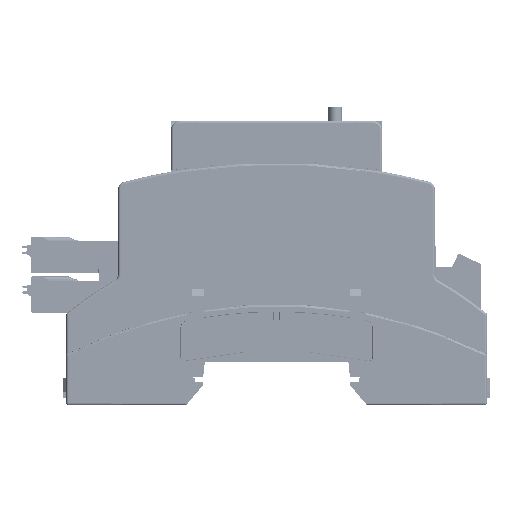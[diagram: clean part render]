
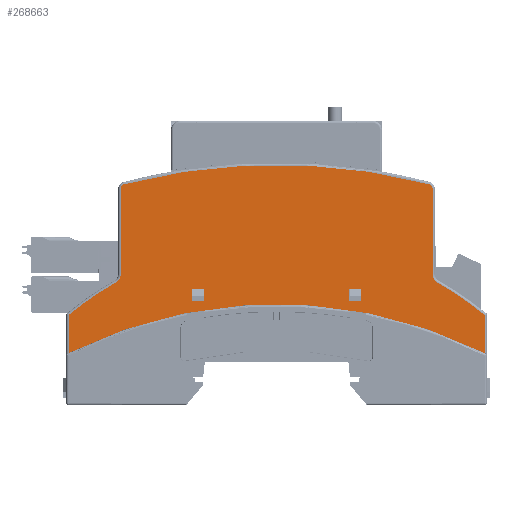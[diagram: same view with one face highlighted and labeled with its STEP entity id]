
A CAD part, front view. The second image highlights one B-rep face of the part: STEP entity #268663.
In plain terms, the highlighted planar face has unit normal (0, -1, 0) as drawn and (0, 0, 1) by its records, which use the part's own axes.
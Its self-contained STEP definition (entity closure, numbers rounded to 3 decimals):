
#2573=FACE_BOUND('',#34791,.T.);
#2574=FACE_BOUND('',#34792,.T.);
#7680=PLANE('',#283083);
#20655=FACE_OUTER_BOUND('',#34790,.T.);
#34790=EDGE_LOOP('',(#212657,#212658,#212659,#212660,#212661,#212662,#212663,
#212664,#212665,#212666,#212667,#212668));
#34791=EDGE_LOOP('',(#212669,#212670,#212671,#212672));
#34792=EDGE_LOOP('',(#212673,#212674,#212675,#212676));
#57710=LINE('',#390709,#94568);
#57715=LINE('',#390727,#94573);
#57718=LINE('',#390735,#94576);
#57724=LINE('',#390754,#94582);
#57726=LINE('',#390768,#94584);
#57727=LINE('',#390770,#94585);
#57728=LINE('',#390772,#94586);
#57729=LINE('',#390773,#94587);
#57730=LINE('',#390776,#94588);
#57731=LINE('',#390778,#94589);
#57732=LINE('',#390780,#94590);
#57733=LINE('',#390781,#94591);
#94568=VECTOR('',#317751,1.);
#94573=VECTOR('',#317770,1.);
#94576=VECTOR('',#317775,1.);
#94582=VECTOR('',#317795,1.);
#94584=VECTOR('',#317813,10.);
#94585=VECTOR('',#317814,10.);
#94586=VECTOR('',#317815,10.);
#94587=VECTOR('',#317816,10.);
#94588=VECTOR('',#317817,10.);
#94589=VECTOR('',#317818,10.);
#94590=VECTOR('',#317819,10.);
#94591=VECTOR('',#317820,10.);
#118410=CIRCLE('',#283060,1.);
#118412=CIRCLE('',#283064,2.);
#118414=CIRCLE('',#283067,69.5);
#118416=CIRCLE('',#283072,69.5);
#118418=CIRCLE('',#283075,2.);
#118420=CIRCLE('',#283079,1.);
#118422=CIRCLE('',#283082,129.2);
#118423=CIRCLE('',#283084,99.5);
#129033=VERTEX_POINT('',#390699);
#129034=VERTEX_POINT('',#390701);
#129036=VERTEX_POINT('',#390707);
#129038=VERTEX_POINT('',#390713);
#129040=VERTEX_POINT('',#390719);
#129042=VERTEX_POINT('',#390725);
#129045=VERTEX_POINT('',#390732);
#129046=VERTEX_POINT('',#390734);
#129048=VERTEX_POINT('',#390740);
#129050=VERTEX_POINT('',#390746);
#129052=VERTEX_POINT('',#390752);
#129054=VERTEX_POINT('',#390758);
#129055=VERTEX_POINT('',#390766);
#129056=VERTEX_POINT('',#390767);
#129057=VERTEX_POINT('',#390769);
#129058=VERTEX_POINT('',#390771);
#129059=VERTEX_POINT('',#390774);
#129060=VERTEX_POINT('',#390775);
#129061=VERTEX_POINT('',#390777);
#129062=VERTEX_POINT('',#390779);
#159644=EDGE_CURVE('',#129033,#129034,#118410,.T.);
#159648=EDGE_CURVE('',#129036,#129033,#57710,.T.);
#159651=EDGE_CURVE('',#129038,#129036,#118412,.T.);
#159654=EDGE_CURVE('',#129040,#129038,#118414,.T.);
#159657=EDGE_CURVE('',#129042,#129040,#57715,.T.);
#159660=EDGE_CURVE('',#129045,#129046,#57718,.T.);
#159664=EDGE_CURVE('',#129048,#129045,#118416,.T.);
#159667=EDGE_CURVE('',#129050,#129048,#118418,.T.);
#159670=EDGE_CURVE('',#129052,#129050,#57724,.T.);
#159673=EDGE_CURVE('',#129054,#129052,#118420,.T.);
#159675=EDGE_CURVE('',#129034,#129054,#118422,.T.);
#159676=EDGE_CURVE('',#129046,#129042,#118423,.T.);
#159677=EDGE_CURVE('',#129055,#129056,#57726,.T.);
#159678=EDGE_CURVE('',#129057,#129055,#57727,.T.);
#159679=EDGE_CURVE('',#129058,#129057,#57728,.T.);
#159680=EDGE_CURVE('',#129056,#129058,#57729,.T.);
#159681=EDGE_CURVE('',#129059,#129060,#57730,.T.);
#159682=EDGE_CURVE('',#129061,#129059,#57731,.T.);
#159683=EDGE_CURVE('',#129062,#129061,#57732,.T.);
#159684=EDGE_CURVE('',#129060,#129062,#57733,.T.);
#212657=ORIENTED_EDGE('',*,*,#159675,.F.);
#212658=ORIENTED_EDGE('',*,*,#159644,.F.);
#212659=ORIENTED_EDGE('',*,*,#159648,.F.);
#212660=ORIENTED_EDGE('',*,*,#159651,.F.);
#212661=ORIENTED_EDGE('',*,*,#159654,.F.);
#212662=ORIENTED_EDGE('',*,*,#159657,.F.);
#212663=ORIENTED_EDGE('',*,*,#159676,.F.);
#212664=ORIENTED_EDGE('',*,*,#159660,.F.);
#212665=ORIENTED_EDGE('',*,*,#159664,.F.);
#212666=ORIENTED_EDGE('',*,*,#159667,.F.);
#212667=ORIENTED_EDGE('',*,*,#159670,.F.);
#212668=ORIENTED_EDGE('',*,*,#159673,.F.);
#212669=ORIENTED_EDGE('',*,*,#159677,.F.);
#212670=ORIENTED_EDGE('',*,*,#159678,.F.);
#212671=ORIENTED_EDGE('',*,*,#159679,.F.);
#212672=ORIENTED_EDGE('',*,*,#159680,.F.);
#212673=ORIENTED_EDGE('',*,*,#159681,.F.);
#212674=ORIENTED_EDGE('',*,*,#159682,.F.);
#212675=ORIENTED_EDGE('',*,*,#159683,.F.);
#212676=ORIENTED_EDGE('',*,*,#159684,.F.);
#268663=ADVANCED_FACE('',(#20655,#2573,#2574),#7680,.F.);
#283060=AXIS2_PLACEMENT_3D('',#390702,#317744,#317745);
#283064=AXIS2_PLACEMENT_3D('',#390715,#317757,#317758);
#283067=AXIS2_PLACEMENT_3D('',#390721,#317764,#317765);
#283072=AXIS2_PLACEMENT_3D('',#390742,#317782,#317783);
#283075=AXIS2_PLACEMENT_3D('',#390748,#317789,#317790);
#283079=AXIS2_PLACEMENT_3D('',#390760,#317801,#317802);
#283082=AXIS2_PLACEMENT_3D('',#390763,#317807,#317808);
#283083=AXIS2_PLACEMENT_3D('',#390764,#317809,#317810);
#283084=AXIS2_PLACEMENT_3D('',#390765,#317811,#317812);
#317744=DIRECTION('center_axis',(0.,0.,
-1.));
#317745=DIRECTION('ref_axis',(-1.,0.,0.));
#317751=DIRECTION('',(0.,1.,0.));
#317757=DIRECTION('center_axis',(0.,0.,
1.));
#317758=DIRECTION('ref_axis',(0.,1.,0.));
#317764=DIRECTION('center_axis',(0.,0.,
-1.));
#317765=DIRECTION('ref_axis',(0.,1.,0.));
#317770=DIRECTION('',(0.,1.,0.));
#317775=DIRECTION('',(0.,-1.,0.));
#317782=DIRECTION('center_axis',(0.,0.,
-1.));
#317783=DIRECTION('ref_axis',(0.,-1.,0.));
#317789=DIRECTION('center_axis',(0.,0.,
1.));
#317790=DIRECTION('ref_axis',(0.,-1.,0.));
#317795=DIRECTION('',(0.,-1.,0.));
#317801=DIRECTION('center_axis',(0.,0.,
-1.));
#317802=DIRECTION('ref_axis',(-1.,0.,0.));
#317807=DIRECTION('center_axis',(0.,0.,
-1.));
#317808=DIRECTION('ref_axis',(1.,0.,0.));
#317809=DIRECTION('center_axis',(0.,0.,
-1.));
#317810=DIRECTION('ref_axis',(0.,1.,0.));
#317811=DIRECTION('center_axis',(0.,0.,
1.));
#317812=DIRECTION('ref_axis',(1.,0.,0.));
#317813=DIRECTION('',(0.,-1.,0.));
#317814=DIRECTION('',(-1.,0.,0.));
#317815=DIRECTION('',(0.,1.,0.));
#317816=DIRECTION('',(1.,0.,0.));
#317817=DIRECTION('',(1.,0.,0.));
#317818=DIRECTION('',(0.,-1.,0.));
#317819=DIRECTION('',(-1.,0.,0.));
#317820=DIRECTION('',(0.,1.,0.));
#390699=CARTESIAN_POINT('',(-33.25,40.177,35.7));
#390701=CARTESIAN_POINT('',(-32.502,41.145,35.7));
#390702=CARTESIAN_POINT('Origin',(-32.25,40.177,35.7));
#390707=CARTESIAN_POINT('',(-33.25,21.957,35.7));
#390709=CARTESIAN_POINT('',(-33.25,-2.3,35.7));
#390713=CARTESIAN_POINT('',(-34.264,20.217,35.7));
#390715=CARTESIAN_POINT('Origin',(-35.25,21.957,35.7));
#390719=CARTESIAN_POINT('',(-44.35,13.26,35.7));
#390721=CARTESIAN_POINT('Origin',(0.,-40.25,
35.7));
#390725=CARTESIAN_POINT('',(-44.35,5.169,35.7));
#390727=CARTESIAN_POINT('',(-44.35,37.989,35.7));
#390732=CARTESIAN_POINT('',(44.35,13.26,35.7));
#390734=CARTESIAN_POINT('',(44.35,5.169,35.7));
#390735=CARTESIAN_POINT('',(44.35,-2.3,35.7));
#390740=CARTESIAN_POINT('',(34.264,20.217,35.7));
#390742=CARTESIAN_POINT('Origin',(0.,-40.25,
35.7));
#390746=CARTESIAN_POINT('',(33.25,21.957,35.7));
#390748=CARTESIAN_POINT('Origin',(35.25,21.957,35.7));
#390752=CARTESIAN_POINT('',(33.25,40.177,35.7));
#390754=CARTESIAN_POINT('',(33.25,-2.3,35.7));
#390758=CARTESIAN_POINT('',(32.502,41.145,35.7));
#390760=CARTESIAN_POINT('Origin',(32.25,40.177,35.7));
#390763=CARTESIAN_POINT('Origin',(0.,-83.9,
35.7));
#390764=CARTESIAN_POINT('Origin',(18.346,37.989,35.7));
#390765=CARTESIAN_POINT('Origin',(0.,-83.9,
35.7));
#390766=CARTESIAN_POINT('',(15.5,18.8,35.7));
#390767=CARTESIAN_POINT('',(15.5,16.2,35.7));
#390768=CARTESIAN_POINT('',(15.5,28.645,35.7));
#390769=CARTESIAN_POINT('',(18.1,18.8,35.7));
#390770=CARTESIAN_POINT('',(18.223,18.8,35.7));
#390771=CARTESIAN_POINT('',(18.1,16.2,35.7));
#390772=CARTESIAN_POINT('',(18.1,27.345,35.7));
#390773=CARTESIAN_POINT('',(16.923,16.2,35.7));
#390774=CARTESIAN_POINT('',(-18.1,16.2,35.7));
#390775=CARTESIAN_POINT('',(-15.5,16.2,35.7));
#390776=CARTESIAN_POINT('',(0.123,16.2,35.7));
#390777=CARTESIAN_POINT('',(-18.1,18.8,35.7));
#390778=CARTESIAN_POINT('',(-18.1,28.645,35.7));
#390779=CARTESIAN_POINT('',(-15.5,18.8,35.7));
#390780=CARTESIAN_POINT('',(18.223,18.8,35.7));
#390781=CARTESIAN_POINT('',(-15.5,27.345,35.7));
